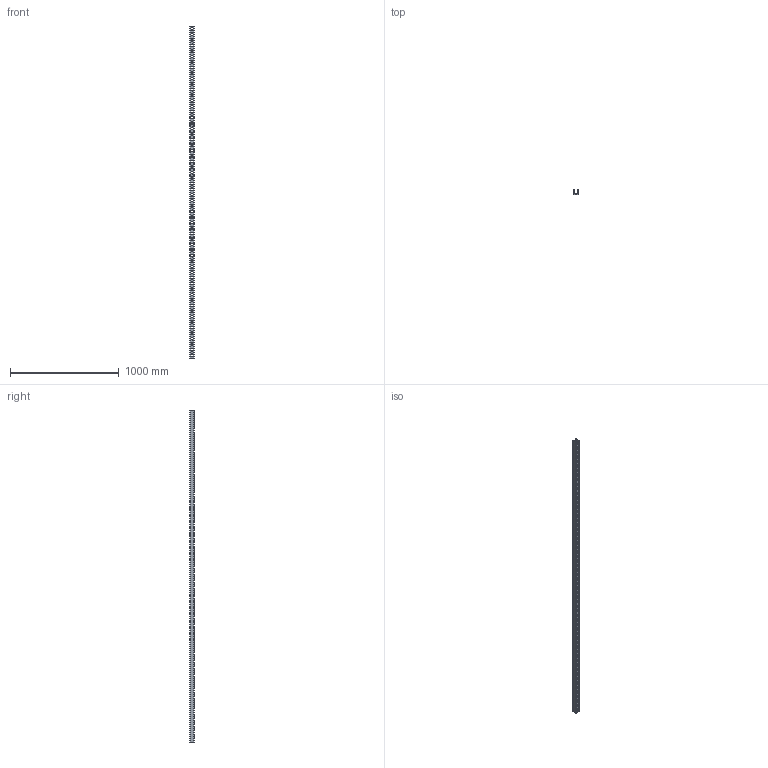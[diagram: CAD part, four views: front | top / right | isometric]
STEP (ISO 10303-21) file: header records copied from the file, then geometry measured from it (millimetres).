
FILE_DESCRIPTION(('TurboCAD Mac Pro'),'Build 980');
FILE_NAME('F20E-2200.stp',' ',(''),(''),'ACIS Interop','IMSI','TurboCAD Mac Pro BY IMSI, INCORPORATED');
FILE_SCHEMA(('automotive_design'));
Length unit declared in the file: inch
Products named in the file (1): 1
Bounding box: 41.29 x 41.27 x 3048 mm (x, y, z)
Volume: 1323640 mm3; surface area: 780967.1 mm2
Topology: 1 solids, 1 shells, 392 faces, 1170 edges, 780 vertices
Faces by surface type: bspline 258, plane 134
Entity records: 19798 total; most frequent: CARTESIAN_POINT 7633, ORIENTED_EDGE 2340, EDGE_CURVE 1170, DIRECTION 940, VERTEX_POINT 780, LINE 654, VECTOR 654, EDGE_LOOP 512
